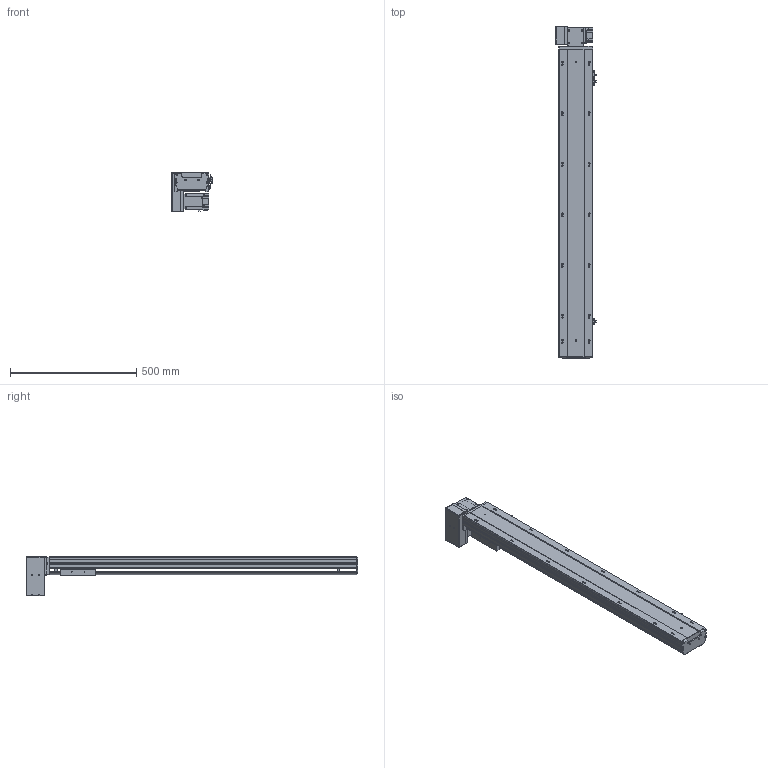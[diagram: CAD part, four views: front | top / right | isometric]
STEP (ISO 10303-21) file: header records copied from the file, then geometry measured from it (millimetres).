
FILE_DESCRIPTION (( 'STEP AP203' ), '1' );
FILE_NAME ('95.STEP', '2022-07-21T11:53:27', ( '' ), ( '' ), 'SwSTEP 2.0', 'SolidWorks 2016', '' );
FILE_SCHEMA (( 'CONFIG_CONTROL_DESIGN' ));
Length unit declared in the file: millimetre
Products named in the file (10): BTB14-L-24; BTB14-L-06; BTB14-L-菁釱_XD; BTB14-L-23; BTB14-L-04; BTB14-L-02; BTB14-L-HZ; BTB14-L-01; BTB14-L-M40; 95
Assembly tree (12 placements, depth 2):
  95
    BTB14-L-菁釱_XD
    BTB14-L-01
    BTB14-L-02
    BTB14-L-04  x3
    BTB14-L-06
    BTB14-L-23  x2
    BTB14-L-24
    BTB14-L-HZ
    BTB14-L-M40
Bounding box: 160.7 x 1312.5 x 156.7 mm (x, y, z)
Volume: 6075299.6 mm3; surface area: 1289583.2 mm2
Topology: 22 solids, 22 shells, 1618 faces, 4277 edges, 2728 vertices
Faces by surface type: plane 937, cylinder 464, cone 128, bspline 77, torus 12
Entity records: 42910 total; most frequent: CARTESIAN_POINT 10599, ORIENTED_EDGE 6468, DIRECTION 6420, EDGE_CURVE 3234, VECTOR 2206, LINE 2206, AXIS2_PLACEMENT_3D 2107, VERTEX_POINT 2106
